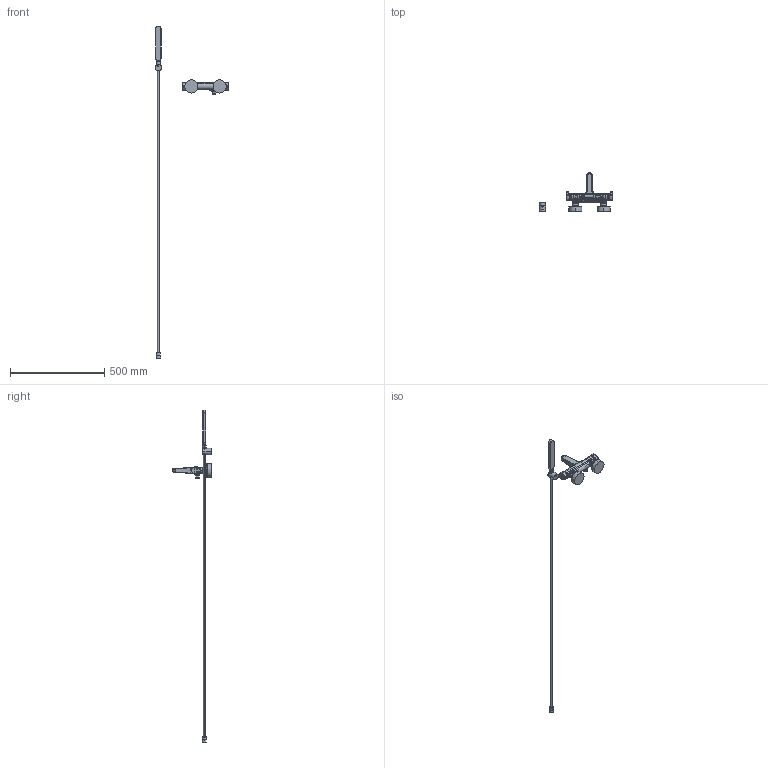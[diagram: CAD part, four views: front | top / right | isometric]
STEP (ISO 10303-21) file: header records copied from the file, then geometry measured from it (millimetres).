
FILE_DESCRIPTION((''),'2;1');
FILE_NAME('F3934','2012-10-11T',('ivanv'),(''),'PRO/ENGINEER BY PARAMETRIC TECHNOLOGY CORPORATION, 2011370','PRO/ENGINEER BY PARAMETRIC TECHNOLOGY CORPORATION, 2011370','');
FILE_SCHEMA(('CONFIG_CONTROL_DESIGN'));
Products named in the file (1): F3934
Bounding box: 390.7 x 203.1 x 1760.5 mm (x, y, z)
Volume: 650855.2 mm3; surface area: 255912.5 mm2
Topology: 8 solids, 10 shells, 1816 faces, 4461 edges, 2695 vertices
Faces by surface type: plane 629, cylinder 405, bspline 383, extrusion 142, torus 104, cone 90, sphere 63
Entity records: 94212 total; most frequent: CARTESIAN_POINT 55678, ORIENTED_EDGE 8828, DIRECTION 6477, EDGE_CURVE 4414, VERTEX_POINT 2695, AXIS2_PLACEMENT_3D 2264, VECTOR 1949, EDGE_LOOP 1913
